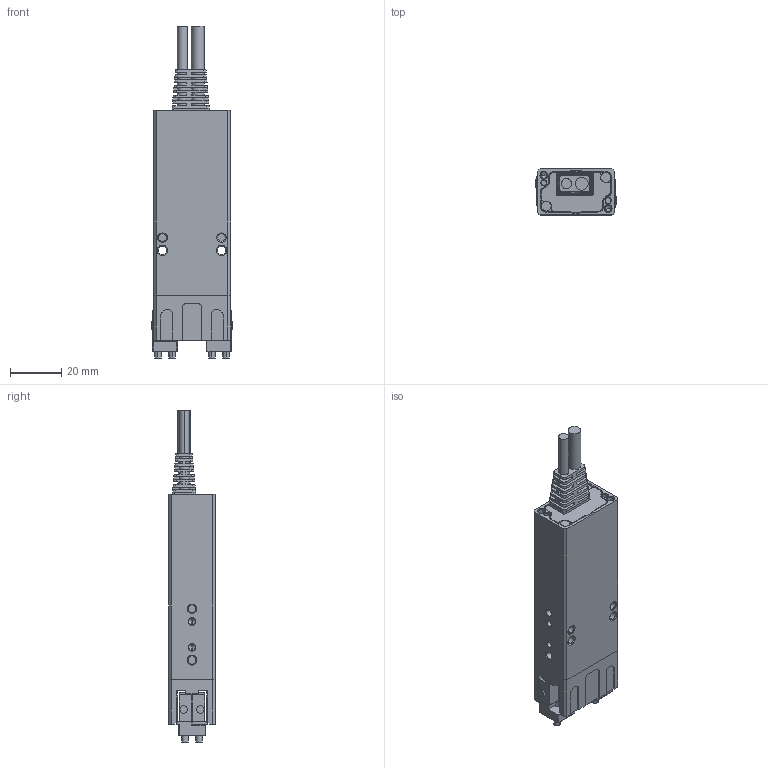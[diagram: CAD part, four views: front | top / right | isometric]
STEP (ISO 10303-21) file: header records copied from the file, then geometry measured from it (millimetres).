
FILE_DESCRIPTION (( 'STEP AP214' ), '1' );
FILE_NAME ('PGE-15-10-O-B.STEP', '2023-07-19T03:50:57', ( '' ), ( '' ), 'SwSTEP 2.0', 'SolidWorks 2020', '' );
FILE_SCHEMA (( 'AUTOMOTIVE_DESIGN' ));
Length unit declared in the file: millimetre
Products named in the file (3): 菁堤俋褲; 忒硌價釱; PGE-15-10-O-B
Assembly tree (3 placements, depth 2):
  PGE-15-10-O-B
    菁堤俋褲
    忒硌價釱  x2
Bounding box: 31.8 x 18 x 129.3 mm (x, y, z)
Volume: 48433.1 mm3; surface area: 20259 mm2
Topology: 21 solids, 21 shells, 751 faces, 1860 edges, 1162 vertices
Faces by surface type: plane 375, cylinder 240, cone 136
Entity records: 26411 total; most frequent: CARTESIAN_POINT 3535, DIRECTION 3318, ORIENTED_EDGE 3230, EDGE_CURVE 1615, AXIS2_PLACEMENT_3D 1121, LINE 1076, VECTOR 1076, VERTEX_POINT 1030
